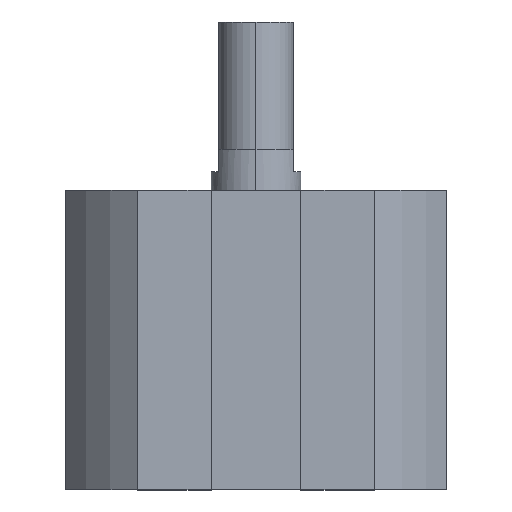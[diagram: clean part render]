
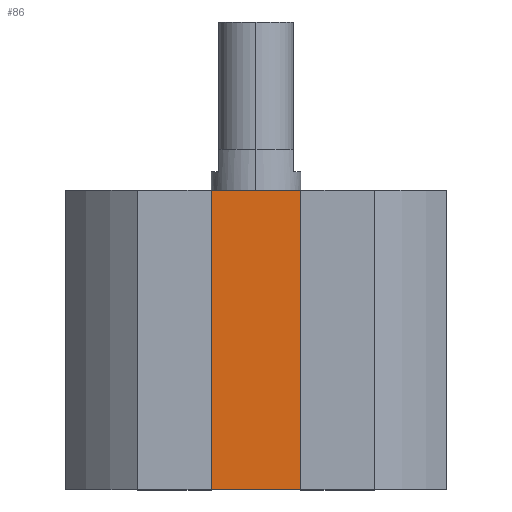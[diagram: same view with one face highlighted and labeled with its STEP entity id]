
A CAD part, top view. The second image highlights one B-rep face of the part: STEP entity #86.
In plain terms, the highlighted planar face has unit normal (0, 0, 1).
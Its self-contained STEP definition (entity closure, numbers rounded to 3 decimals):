
#69 = CARTESIAN_POINT ( 'NONE',  ( 0., -40., 17. ) ) ;
#82 = DIRECTION ( 'NONE',  ( 1., 0., 0. ) ) ;
#86 = ADVANCED_FACE ( 'NONE', ( #1689 ), #994, .T. ) ;
#116 = VECTOR ( 'NONE', #933, 1000. ) ;
#175 = EDGE_LOOP ( 'NONE', ( #570, #1474, #845, #1005 ) ) ;
#324 = CARTESIAN_POINT ( 'NONE',  ( 7.7, 0., 17. ) ) ;
#334 = CARTESIAN_POINT ( 'NONE',  ( 0., 0., 17. ) ) ;
#395 = EDGE_CURVE ( 'NONE', #1180, #1327, #948, .T. ) ;
#457 = EDGE_CURVE ( 'NONE', #1884, #688, #2936, .T. ) ;
#521 = LINE ( 'NONE', #733, #2432 ) ;
#570 = ORIENTED_EDGE ( 'NONE', *, *, #632, .F. ) ;
#632 = EDGE_CURVE ( 'NONE', #1327, #688, #1648, .T. ) ;
#688 = VERTEX_POINT ( 'NONE', #324 ) ;
#733 = CARTESIAN_POINT ( 'NONE',  ( 0., -40., 17. ) ) ;
#739 = CARTESIAN_POINT ( 'NONE',  ( -7.7, 0., 17. ) ) ;
#843 = CARTESIAN_POINT ( 'NONE',  ( -7.7, -40., 17. ) ) ;
#845 = ORIENTED_EDGE ( 'NONE', *, *, #2161, .T. ) ;
#933 = DIRECTION ( 'NONE',  ( 0., 1., 0. ) ) ;
#948 = LINE ( 'NONE', #1841, #116 ) ;
#953 = DIRECTION ( 'NONE',  ( 1., 0., 0. ) ) ;
#994 = PLANE ( 'NONE',  #1293 ) ;
#1005 = ORIENTED_EDGE ( 'NONE', *, *, #457, .T. ) ;
#1180 = VERTEX_POINT ( 'NONE', #843 ) ;
#1293 = AXIS2_PLACEMENT_3D ( 'NONE', #69, #2198, #1929 ) ;
#1327 = VERTEX_POINT ( 'NONE', #739 ) ;
#1381 = CARTESIAN_POINT ( 'NONE',  ( 7.7, -40., 17. ) ) ;
#1436 = CARTESIAN_POINT ( 'NONE',  ( 7.7, -40., 17. ) ) ;
#1474 = ORIENTED_EDGE ( 'NONE', *, *, #395, .F. ) ;
#1648 = LINE ( 'NONE', #334, #1728 ) ;
#1689 = FACE_OUTER_BOUND ( 'NONE', #175, .T. ) ;
#1728 = VECTOR ( 'NONE', #82, 1000. ) ;
#1841 = CARTESIAN_POINT ( 'NONE',  ( -7.7, -40., 17. ) ) ;
#1884 = VERTEX_POINT ( 'NONE', #1436 ) ;
#1929 = DIRECTION ( 'NONE',  ( 1., 0., 0. ) ) ;
#2161 = EDGE_CURVE ( 'NONE', #1180, #1884, #521, .T. ) ;
#2198 = DIRECTION ( 'NONE',  ( 0., 0., 1. ) ) ;
#2233 = VECTOR ( 'NONE', #3025, 1000. ) ;
#2432 = VECTOR ( 'NONE', #953, 1000. ) ;
#2936 = LINE ( 'NONE', #1381, #2233 ) ;
#3025 = DIRECTION ( 'NONE',  ( 0., 1., 0. ) ) ;
